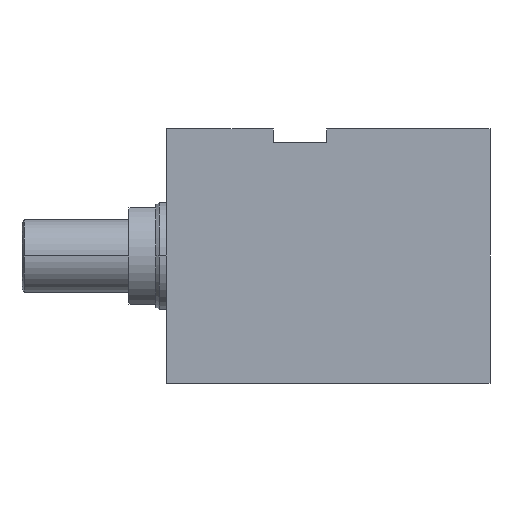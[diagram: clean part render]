
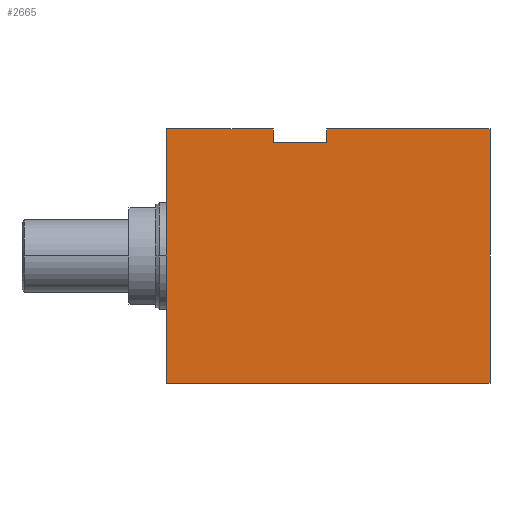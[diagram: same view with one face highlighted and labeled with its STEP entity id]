
A CAD part, left-side view. The second image highlights one B-rep face of the part: STEP entity #2665.
In plain terms, the highlighted planar face has unit normal (-1, 0, 0).
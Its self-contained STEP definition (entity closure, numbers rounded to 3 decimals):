
#117 = VERTEX_POINT ( 'NONE', #1218 ) ;
#141 = VECTOR ( 'NONE', #651, 1000. ) ;
#149 = EDGE_CURVE ( 'NONE', #179, #2054, #777, .T. ) ;
#163 = LINE ( 'NONE', #965, #2031 ) ;
#179 = VERTEX_POINT ( 'NONE', #575 ) ;
#212 = CARTESIAN_POINT ( 'NONE',  ( -62.5, 0., -47.5 ) ) ;
#373 = ORIENTED_EDGE ( 'NONE', *, *, #1309, .F. ) ;
#427 = DIRECTION ( 'NONE',  ( 0., -1., 0. ) ) ;
#474 = VERTEX_POINT ( 'NONE', #2668 ) ;
#535 = VECTOR ( 'NONE', #812, 1000. ) ;
#567 = VERTEX_POINT ( 'NONE', #827 ) ;
#575 = CARTESIAN_POINT ( 'NONE',  ( -62.5, 81., 42.5 ) ) ;
#585 = VECTOR ( 'NONE', #427, 1000. ) ;
#651 = DIRECTION ( 'NONE',  ( 0., 0., 1. ) ) ;
#666 = CARTESIAN_POINT ( 'NONE',  ( -62.5, 81., 42.5 ) ) ;
#670 = CARTESIAN_POINT ( 'NONE',  ( -62.5, 81., 42.5 ) ) ;
#758 = VECTOR ( 'NONE', #1701, 1000. ) ;
#777 = LINE ( 'NONE', #670, #141 ) ;
#812 = DIRECTION ( 'NONE',  ( 0., 0., 1. ) ) ;
#827 = CARTESIAN_POINT ( 'NONE',  ( -62.5, 121., -47.5 ) ) ;
#830 = DIRECTION ( 'NONE',  ( 0., -1., 0. ) ) ;
#837 = CARTESIAN_POINT ( 'NONE',  ( -62.5, 91., -47.5 ) ) ;
#839 = LINE ( 'NONE', #1475, #758 ) ;
#905 = LINE ( 'NONE', #994, #1527 ) ;
#925 = VERTEX_POINT ( 'NONE', #1151 ) ;
#965 = CARTESIAN_POINT ( 'NONE',  ( -62.5, 91., 47.5 ) ) ;
#994 = CARTESIAN_POINT ( 'NONE',  ( -62.5, 61., 42.5 ) ) ;
#1065 = DIRECTION ( 'NONE',  ( 0., 0., -1. ) ) ;
#1077 = ORIENTED_EDGE ( 'NONE', *, *, #2500, .F. ) ;
#1087 = LINE ( 'NONE', #2204, #535 ) ;
#1127 = LINE ( 'NONE', #2059, #585 ) ;
#1137 = DIRECTION ( 'NONE',  ( 0., -1., 0. ) ) ;
#1138 = ORIENTED_EDGE ( 'NONE', *, *, #149, .T. ) ;
#1151 = CARTESIAN_POINT ( 'NONE',  ( -62.5, 61., 42.5 ) ) ;
#1211 = DIRECTION ( 'NONE',  ( 0., 0., 1. ) ) ;
#1218 = CARTESIAN_POINT ( 'NONE',  ( -62.5, 0., 47.5 ) ) ;
#1259 = EDGE_LOOP ( 'NONE', ( #2763, #2154, #373, #1138, #2872, #1077, #2326, #1609 ) ) ;
#1296 = EDGE_CURVE ( 'NONE', #567, #2946, #1127, .T. ) ;
#1309 = EDGE_CURVE ( 'NONE', #179, #925, #1744, .T. ) ;
#1475 = CARTESIAN_POINT ( 'NONE',  ( -62.5, 121., -47.5 ) ) ;
#1527 = VECTOR ( 'NONE', #1211, 1000. ) ;
#1609 = ORIENTED_EDGE ( 'NONE', *, *, #2644, .T. ) ;
#1701 = DIRECTION ( 'NONE',  ( 0., 0., 1. ) ) ;
#1718 = EDGE_CURVE ( 'NONE', #2768, #2054, #163, .T. ) ;
#1744 = LINE ( 'NONE', #666, #2283 ) ;
#1774 = CARTESIAN_POINT ( 'NONE',  ( -62.5, 81., 47.5 ) ) ;
#1961 = EDGE_CURVE ( 'NONE', #474, #117, #2620, .T. ) ;
#1997 = VECTOR ( 'NONE', #830, 1000. ) ;
#2031 = VECTOR ( 'NONE', #2343, 1000. ) ;
#2054 = VERTEX_POINT ( 'NONE', #1774 ) ;
#2059 = CARTESIAN_POINT ( 'NONE',  ( -62.5, 91., -47.5 ) ) ;
#2154 = ORIENTED_EDGE ( 'NONE', *, *, #2455, .F. ) ;
#2204 = CARTESIAN_POINT ( 'NONE',  ( -62.5, 0., -47.5 ) ) ;
#2214 = PLANE ( 'NONE',  #2940 ) ;
#2240 = FACE_OUTER_BOUND ( 'NONE', #1259, .T. ) ;
#2283 = VECTOR ( 'NONE', #1137, 1000. ) ;
#2326 = ORIENTED_EDGE ( 'NONE', *, *, #1296, .T. ) ;
#2343 = DIRECTION ( 'NONE',  ( 0., -1., 0. ) ) ;
#2442 = CARTESIAN_POINT ( 'NONE',  ( -62.5, 91., 47.5 ) ) ;
#2448 = DIRECTION ( 'NONE',  ( 1., 0., 0. ) ) ;
#2455 = EDGE_CURVE ( 'NONE', #925, #474, #905, .T. ) ;
#2500 = EDGE_CURVE ( 'NONE', #567, #2768, #839, .T. ) ;
#2620 = LINE ( 'NONE', #2442, #1997 ) ;
#2644 = EDGE_CURVE ( 'NONE', #2946, #117, #1087, .T. ) ;
#2665 = ADVANCED_FACE ( 'NONE', ( #2240 ), #2214, .F. ) ;
#2668 = CARTESIAN_POINT ( 'NONE',  ( -62.5, 61., 47.5 ) ) ;
#2711 = CARTESIAN_POINT ( 'NONE',  ( -62.5, 121., 47.5 ) ) ;
#2763 = ORIENTED_EDGE ( 'NONE', *, *, #1961, .F. ) ;
#2768 = VERTEX_POINT ( 'NONE', #2711 ) ;
#2872 = ORIENTED_EDGE ( 'NONE', *, *, #1718, .F. ) ;
#2940 = AXIS2_PLACEMENT_3D ( 'NONE', #837, #2448, #1065 ) ;
#2946 = VERTEX_POINT ( 'NONE', #212 ) ;
